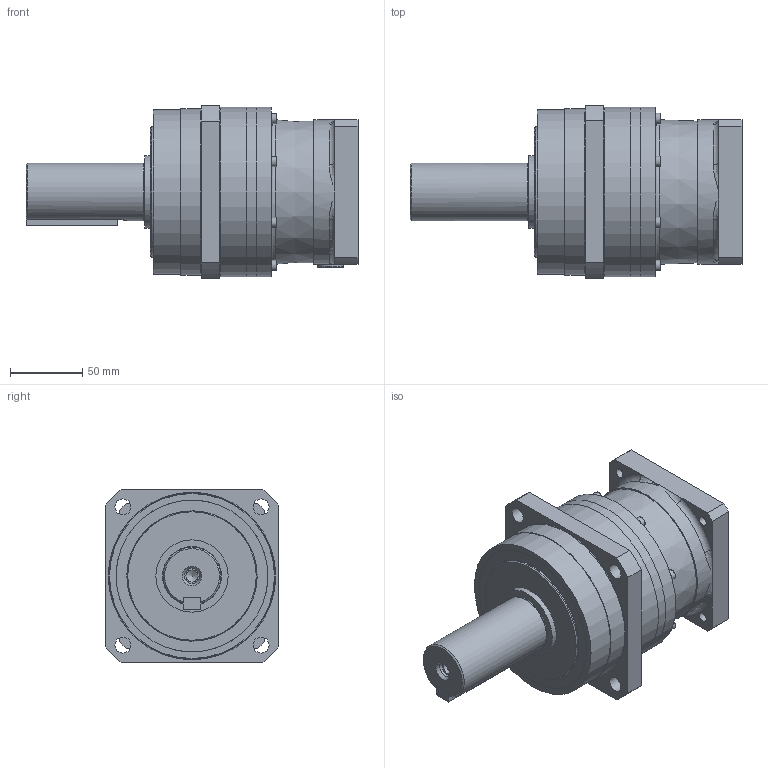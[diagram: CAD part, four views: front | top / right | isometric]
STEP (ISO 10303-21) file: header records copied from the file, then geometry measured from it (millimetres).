
FILE_DESCRIPTION(/* description */ ('ANFX-P130W-2-7Y'),/* implementation_level */ '2;1');
FILE_NAME(/* name */ 'C:\Users\ADMINI~1\AppData\Local\Temp\MM582197_ANFX-P130W-2-7Y.stp',/* time_stamp */ '2018-06-20T10:17:33+02:00',/* author */ ('Max'),/* organization */ (''),/* preprocessor_version */ 'ST-DEVELOPER v17',/* originating_system */ 'Autodesk Inventor 2018',/* authorisation */ '');
FILE_SCHEMA (('AUTOMOTIVE_DESIGN { 1 0 10303 214 3 1 1 }'));
Length unit declared in the file: millimetre
Products named in the file (18): MM579206; MMBG0004078; MMCL445LG; MMCM226LG; MAX4841G; MAW8388G; M233C1208063NG; MMBG0004105; MMCH509LG; 5006008RS---G; 009M004R025NG; M530A406212--G; MMAQ1008G; 213742; MMAP3262G; MMCH633LG; 204123; MAW8794G
Assembly tree (31 placements, depth 3):
  MM579206
    MMBG0004078
      MMCL445LG
      MMCM226LG
      MAX4841G
      MAW8388G
      M233C1208063NG
    MMBG0004105
      MMCH509LG
      5006008RS---G
      009M004R025NG  x8
      M530A406212--G
      MMAQ1008G
      213742
      MMAP3262G
    MMCH633LG
    204123  x8
    MAW8794G
Bounding box: 229.5 x 120 x 120 mm (x, y, z)
Volume: 992734.9 mm3; surface area: 289766.6 mm2
Topology: 88 solids, 89 shells, 646 faces, 1817 edges, 1289 vertices
Faces by surface type: plane 273, cylinder 195, cone 67, sphere 58, torus 47, bspline 6
Full cylindrical faces by diameter (mm): 3.242 x12, 4 x9, 4.5 x16, 4.917 x9, 6 x9, 6.6 x9, 6.647 x4, 7 x8, 8.376 x1, 10 x9, 10.5 x1, 11 x12, 15 x1, 15.2 x1, 15.6 x1, 18 x1, 20 x1, 24.5 x1, 28 x2, 38 x1, 39.4 x1, 39.6 x1, 40 x3, 42 x2, 45 x1, 45.28 x1, 49.2 x4, 50 x1, 57.6 x1, 59.5 x2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
Entity records: 16298 total; most frequent: CARTESIAN_POINT 3219, DIRECTION 2883, ORIENTED_EDGE 2314, AXIS2_PLACEMENT_3D 1280, EDGE_CURVE 1157, VERTEX_POINT 925, CIRCLE 787, EDGE_LOOP 616
